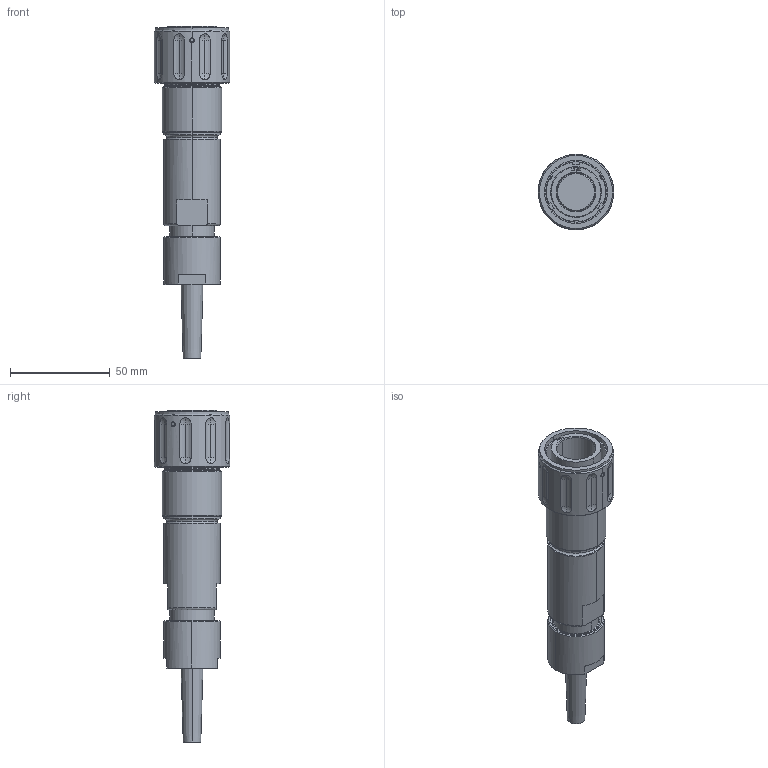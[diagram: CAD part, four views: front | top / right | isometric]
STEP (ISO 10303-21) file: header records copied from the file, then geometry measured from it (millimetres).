
FILE_DESCRIPTION (( 'STEP AP214' ), '1' );
FILE_NAME ('QLINK-PGBX-17XX-SXXX-RA.STEP', '2025-12-09T15:31:10', ( '' ), ( '' ), 'SwSTEP 2.0', 'SolidWorks 2024', '' );
FILE_SCHEMA (( 'AUTOMOTIVE_DESIGN' ));
Length unit declared in the file: millimetre
Products named in the file (1): QLINK-PGBX-17XX-SXXX-RA
Bounding box: 37.97 x 37.97 x 166.83 mm (x, y, z)
Volume: 88951.9 mm3; surface area: 23228.8 mm2
Topology: 5 solids, 5 shells, 255 faces, 586 edges, 365 vertices
Faces by surface type: cylinder 92, plane 64, cone 45, sphere 36, torus 12, bspline 6
Entity records: 9989 total; most frequent: CARTESIAN_POINT 4163, DIRECTION 1250, ORIENTED_EDGE 1172, EDGE_CURVE 586, AXIS2_PLACEMENT_3D 516, VERTEX_POINT 365, EDGE_LOOP 289, CIRCLE 266
